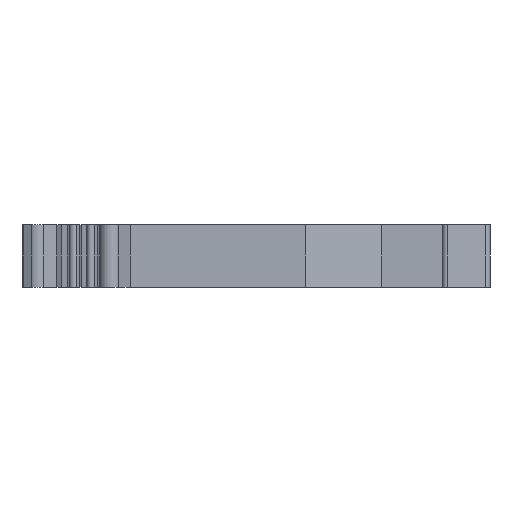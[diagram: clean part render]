
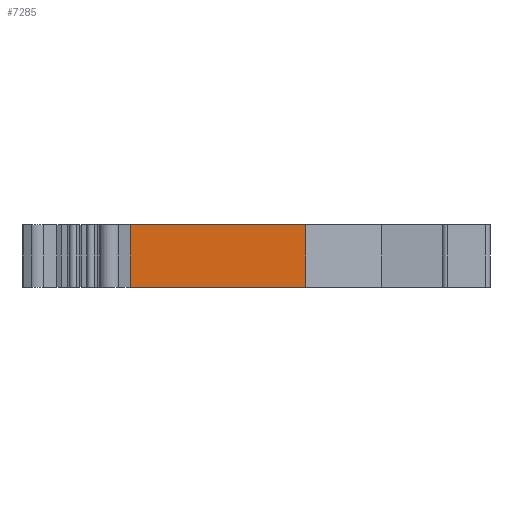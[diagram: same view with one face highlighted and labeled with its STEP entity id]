
A CAD part, left-side view. The second image highlights one B-rep face of the part: STEP entity #7285.
In plain terms, the highlighted planar face has unit normal (-1, 0, 0).
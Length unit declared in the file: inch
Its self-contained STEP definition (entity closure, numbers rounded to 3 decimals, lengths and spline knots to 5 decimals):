
#134=DIRECTION('',(0.,-1.,0.));
#135=VECTOR('',#134,17.3);
#136=CARTESIAN_POINT('',(-12.85813,-18.82536,0.));
#137=LINE('',#136,#135);
#1113=DIRECTION('',(0.,-1.,0.));
#1114=VECTOR('',#1113,17.3);
#1115=CARTESIAN_POINT('',(-12.85813,-18.82536,6.2));
#1116=LINE('',#1115,#1114);
#2281=DIRECTION('',(0.,0.,1.));
#2282=VECTOR('',#2281,6.2);
#2283=CARTESIAN_POINT('',(-12.85813,-36.12536,0.));
#2284=LINE('',#2283,#2282);
#2285=DIRECTION('',(0.,0.,1.));
#2286=VECTOR('',#2285,6.2);
#2287=CARTESIAN_POINT('',(-12.85813,-18.82536,0.));
#2288=LINE('',#2287,#2286);
#3785=CARTESIAN_POINT('',(-12.85813,-18.82536,0.));
#3786=VERTEX_POINT('',#3785);
#3787=CARTESIAN_POINT('',(-12.85813,-36.12536,0.));
#3788=VERTEX_POINT('',#3787);
#4055=CARTESIAN_POINT('',(-12.85813,-18.82536,6.2));
#4056=VERTEX_POINT('',#4055);
#4057=CARTESIAN_POINT('',(-12.85813,-36.12536,6.2));
#4058=VERTEX_POINT('',#4057);
#7273=CARTESIAN_POINT('',(-12.85813,-18.82536,0.));
#7274=DIRECTION('',(-1.,0.,0.));
#7275=DIRECTION('',(0.,-1.,0.));
#7276=AXIS2_PLACEMENT_3D('',#7273,#7274,#7275);
#7277=PLANE('',#7276);
#7278=ORIENTED_EDGE('',*,*,#4998,.F.);
#7280=ORIENTED_EDGE('',*,*,#7279,.T.);
#7281=ORIENTED_EDGE('',*,*,#5545,.T.);
#7282=ORIENTED_EDGE('',*,*,#7266,.F.);
#7283=EDGE_LOOP('',(#7278,#7280,#7281,#7282));
#7284=FACE_OUTER_BOUND('',#7283,.F.);
#7285=ADVANCED_FACE('',(#7284),#7277,.T.);
#4998=EDGE_CURVE('',#3786,#3788,#137,.T.);
#5545=EDGE_CURVE('',#4056,#4058,#1116,.T.);
#7266=EDGE_CURVE('',#3788,#4058,#2284,.T.);
#7279=EDGE_CURVE('',#3786,#4056,#2288,.T.);
